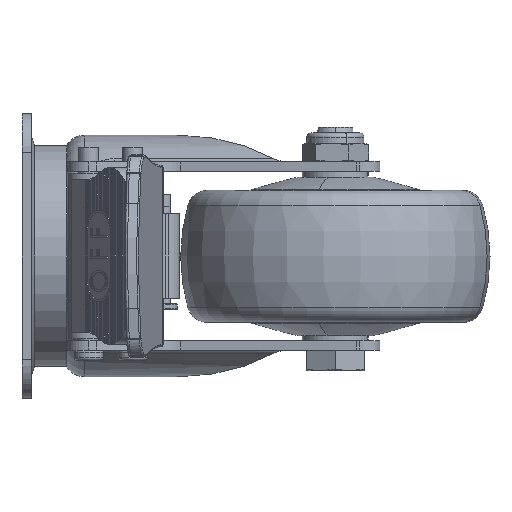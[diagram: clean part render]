
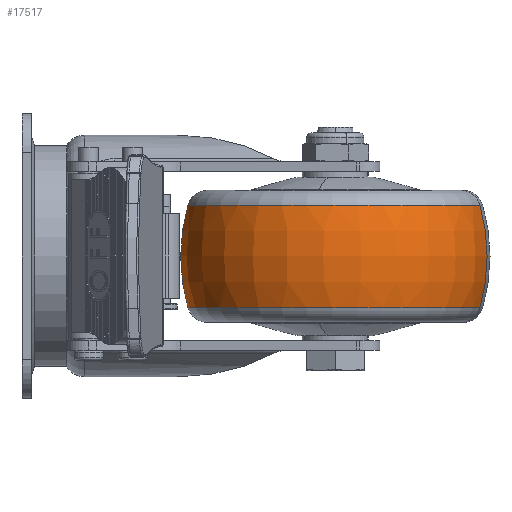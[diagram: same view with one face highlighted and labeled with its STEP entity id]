
A CAD part, left-side view. The second image highlights one B-rep face of the part: STEP entity #17517.
In plain terms, the highlighted toroidal (fillet/blend) face has major radius 6.667 mm and minor radius 44.167 mm.
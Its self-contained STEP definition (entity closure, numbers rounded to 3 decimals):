
#88 = CARTESIAN_POINT ( 'NONE',  ( -12.404, 0., 0. ) ) ;
#810 = CIRCLE ( 'NONE', #33425, 35.722 ) ;
#1286 = AXIS2_PLACEMENT_3D ( 'NONE', #27540, #35271, #2993 ) ;
#2993 = DIRECTION ( 'NONE',  ( 0., 0., 1. ) ) ;
#3385 = ORIENTED_EDGE ( 'NONE', *, *, #7489, .T. ) ;
#3459 = VERTEX_POINT ( 'NONE', #26145 ) ;
#4526 = CARTESIAN_POINT ( 'NONE',  ( -12.404, 0., 35.722 ) ) ;
#5117 = EDGE_CURVE ( 'NONE', #3459, #7099, #810, .T. ) ;
#5554 = TOROIDAL_SURFACE ( 'NONE', #7839, -6.667, 44.167 ) ;
#6792 = EDGE_CURVE ( 'NONE', #3459, #10454, #15729, .T. ) ;
#7099 = VERTEX_POINT ( 'NONE', #7417 ) ;
#7417 = CARTESIAN_POINT ( 'NONE',  ( 12.404, 0., -35.722 ) ) ;
#7489 = EDGE_CURVE ( 'NONE', #7099, #11302, #22623, .T. ) ;
#7654 = DIRECTION ( 'NONE',  ( 0., 0., 1. ) ) ;
#7839 = AXIS2_PLACEMENT_3D ( 'NONE', #24314, #29686, #21972 ) ;
#9742 = CARTESIAN_POINT ( 'NONE',  ( -12.404, 0., -35.722 ) ) ;
#10454 = VERTEX_POINT ( 'NONE', #4526 ) ;
#11302 = VERTEX_POINT ( 'NONE', #9742 ) ;
#11735 = EDGE_CURVE ( 'NONE', #10454, #11302, #27604, .T. ) ;
#12324 = EDGE_LOOP ( 'NONE', ( #25024, #3385, #32318, #23497 ) ) ;
#12686 = DIRECTION ( 'NONE',  ( -1., 0., 0. ) ) ;
#12844 = CARTESIAN_POINT ( 'NONE',  ( 0., 0., -6.667 ) ) ;
#14256 = DIRECTION ( 'NONE',  ( -1., 0., 0. ) ) ;
#15729 = CIRCLE ( 'NONE', #28327, 44.167 ) ;
#16068 = FACE_OUTER_BOUND ( 'NONE', #12324, .T. ) ;
#17517 = ADVANCED_FACE ( 'NONE', ( #16068 ), #5554, .T. ) ;
#21067 = DIRECTION ( 'NONE',  ( 0., -1., 0. ) ) ;
#21972 = DIRECTION ( 'NONE',  ( 0., 0., 1. ) ) ;
#22623 = CIRCLE ( 'NONE', #1286, 44.167 ) ;
#23497 = ORIENTED_EDGE ( 'NONE', *, *, #6792, .F. ) ;
#24314 = CARTESIAN_POINT ( 'NONE',  ( 0., 0., 0. ) ) ;
#25024 = ORIENTED_EDGE ( 'NONE', *, *, #5117, .T. ) ;
#26145 = CARTESIAN_POINT ( 'NONE',  ( 12.404, 0., 35.722 ) ) ;
#27540 = CARTESIAN_POINT ( 'NONE',  ( 0., 0., 6.667 ) ) ;
#27604 = CIRCLE ( 'NONE', #34485, 35.722 ) ;
#28327 = AXIS2_PLACEMENT_3D ( 'NONE', #12844, #21067, #32179 ) ;
#29686 = DIRECTION ( 'NONE',  ( -1., 0., 0. ) ) ;
#32179 = DIRECTION ( 'NONE',  ( 0., 0., -1. ) ) ;
#32203 = CARTESIAN_POINT ( 'NONE',  ( 12.404, 0., 0. ) ) ;
#32318 = ORIENTED_EDGE ( 'NONE', *, *, #11735, .F. ) ;
#33425 = AXIS2_PLACEMENT_3D ( 'NONE', #32203, #12686, #7654 ) ;
#34485 = AXIS2_PLACEMENT_3D ( 'NONE', #88, #14256, #35403 ) ;
#35271 = DIRECTION ( 'NONE',  ( 0., 1., 0. ) ) ;
#35403 = DIRECTION ( 'NONE',  ( 0., 0., 1. ) ) ;
